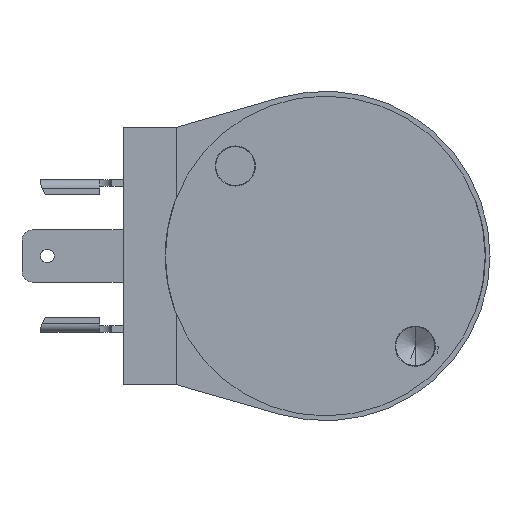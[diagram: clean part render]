
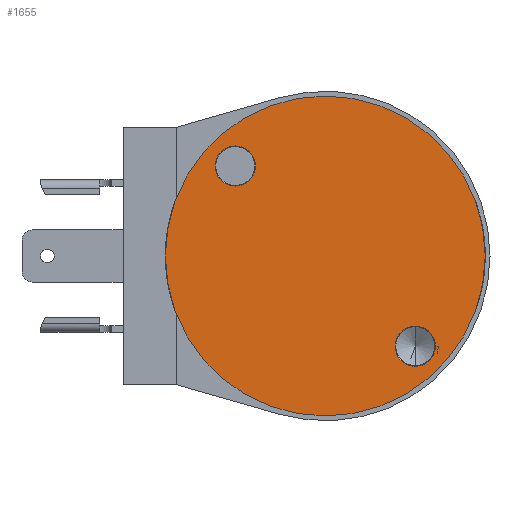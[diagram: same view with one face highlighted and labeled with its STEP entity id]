
A CAD part, front view. The second image highlights one B-rep face of the part: STEP entity #1655.
In plain terms, the highlighted planar face has unit normal (0, -1, 0).
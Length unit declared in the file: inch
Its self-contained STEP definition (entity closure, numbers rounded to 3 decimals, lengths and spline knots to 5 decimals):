
#63 = EDGE_LOOP ( 'NONE', ( #527, #3180 ) ) ;
#255 = AXIS2_PLACEMENT_3D ( 'NONE', #1449, #6334, #6424 ) ;
#491 = FACE_OUTER_BOUND ( 'NONE', #3313, .T. ) ;
#527 = ORIENTED_EDGE ( 'NONE', *, *, #6997, .F. ) ;
#741 = AXIS2_PLACEMENT_3D ( 'NONE', #7766, #8821, #4007 ) ;
#743 = DIRECTION ( 'NONE',  ( 0., 1., 0. ) ) ;
#1117 = CARTESIAN_POINT ( 'NONE',  ( -0.437, 0., 0.437 ) ) ;
#1172 = CARTESIAN_POINT ( 'NONE',  ( -0.437, 0., 0.3395 ) ) ;
#1203 = CARTESIAN_POINT ( 'NONE',  ( 0.437, 0., -0.3405 ) ) ;
#1401 = CIRCLE ( 'NONE', #6269, 0.77675 ) ;
#1449 = CARTESIAN_POINT ( 'NONE',  ( 0., 0., 0. ) ) ;
#1533 = FACE_BOUND ( 'NONE', #63, .T. ) ;
#1655 = ADVANCED_FACE ( 'Defeatured_0_23', ( #12659, #1533, #491 ), #10112, .F. ) ;
#1741 = ORIENTED_EDGE ( 'NONE', *, *, #3952, .F. ) ;
#1800 = CARTESIAN_POINT ( 'NONE',  ( 0., 0., -0.77675 ) ) ;
#2077 = DIRECTION ( 'NONE',  ( 0., 0., 1. ) ) ;
#2421 = VERTEX_POINT ( 'NONE', #1172 ) ;
#2586 = CIRCLE ( 'NONE', #6925, 0.77675 ) ;
#3126 = VERTEX_POINT ( 'NONE', #1203 ) ;
#3167 = CARTESIAN_POINT ( 'NONE',  ( -0.437, 0., 0.5345 ) ) ;
#3180 = ORIENTED_EDGE ( 'NONE', *, *, #14201, .F. ) ;
#3200 = DIRECTION ( 'NONE',  ( 0., 1., 0. ) ) ;
#3271 = CARTESIAN_POINT ( 'NONE',  ( 0., 0., 0. ) ) ;
#3313 = EDGE_LOOP ( 'NONE', ( #12148, #15206 ) ) ;
#3596 = DIRECTION ( 'NONE',  ( 0., 0., -1. ) ) ;
#3952 = EDGE_CURVE ( 'Defeatured_0_141+Defeatured_0_23+Defeatured_0_23+Defeatured_0_23', #3126, #12617, #6875, .T. ) ;
#4007 = DIRECTION ( 'NONE',  ( 0., 0., -1. ) ) ;
#4268 = DIRECTION ( 'NONE',  ( 0., 0., 1. ) ) ;
#5129 = DIRECTION ( 'NONE',  ( 0., 0., -1. ) ) ;
#6203 = EDGE_CURVE ( 'Defeatured_0_141+Defeatured_0_23+Defeatured_0_23+Defeatured_0_23', #12617, #3126, #9485, .T. ) ;
#6269 = AXIS2_PLACEMENT_3D ( 'NONE', #6518, #743, #4268 ) ;
#6334 = DIRECTION ( 'NONE',  ( 0., 1., 0. ) ) ;
#6424 = DIRECTION ( 'NONE',  ( 0., 0., 1. ) ) ;
#6441 = VERTEX_POINT ( 'NONE', #1800 ) ;
#6518 = CARTESIAN_POINT ( 'NONE',  ( 0., 0., 0. ) ) ;
#6543 = CIRCLE ( 'NONE', #11913, 0.0975 ) ;
#6875 = CIRCLE ( 'NONE', #741, 0.0975 ) ;
#6925 = AXIS2_PLACEMENT_3D ( 'NONE', #3271, #3200, #2077 ) ;
#6997 = EDGE_CURVE ( 'Defeatured_0_143+Defeatured_0_23+Defeatured_0_23+Defeatured_0_23', #2421, #7011, #12811, .T. ) ;
#7000 = DIRECTION ( 'NONE',  ( 0., 0., -1. ) ) ;
#7011 = VERTEX_POINT ( 'NONE', #3167 ) ;
#7571 = EDGE_CURVE ( 'Defeatured_0_21+Defeatured_0_23+Defeatured_0_23+Defeatured_0_23', #6441, #7930, #2586, .T. ) ;
#7766 = CARTESIAN_POINT ( 'NONE',  ( 0.437, 0., -0.438 ) ) ;
#7882 = ORIENTED_EDGE ( 'NONE', *, *, #6203, .F. ) ;
#7930 = VERTEX_POINT ( 'NONE', #9085 ) ;
#8198 = AXIS2_PLACEMENT_3D ( 'NONE', #8658, #11060, #5129 ) ;
#8658 = CARTESIAN_POINT ( 'NONE',  ( 0.437, 0., -0.438 ) ) ;
#8821 = DIRECTION ( 'NONE',  ( 0., -1., 0. ) ) ;
#9085 = CARTESIAN_POINT ( 'NONE',  ( 0., 0., 0.77675 ) ) ;
#9251 = CARTESIAN_POINT ( 'NONE',  ( -0.437, 0., 0.437 ) ) ;
#9485 = CIRCLE ( 'NONE', #8198, 0.0975 ) ;
#9495 = AXIS2_PLACEMENT_3D ( 'NONE', #9251, #13086, #7000 ) ;
#9888 = CARTESIAN_POINT ( 'NONE',  ( 0.437, 0., -0.5355 ) ) ;
#10112 = PLANE ( 'NONE',  #255 ) ;
#10121 = EDGE_LOOP ( 'NONE', ( #7882, #1741 ) ) ;
#11060 = DIRECTION ( 'NONE',  ( 0., -1., 0. ) ) ;
#11913 = AXIS2_PLACEMENT_3D ( 'NONE', #1117, #14604, #3596 ) ;
#12148 = ORIENTED_EDGE ( 'NONE', *, *, #7571, .F. ) ;
#12617 = VERTEX_POINT ( 'NONE', #9888 ) ;
#12659 = FACE_BOUND ( 'NONE', #10121, .T. ) ;
#12811 = CIRCLE ( 'NONE', #9495, 0.0975 ) ;
#12895 = EDGE_CURVE ( 'Defeatured_0_21+Defeatured_0_23+Defeatured_0_23+Defeatured_0_23', #7930, #6441, #1401, .T. ) ;
#13086 = DIRECTION ( 'NONE',  ( 0., -1., 0. ) ) ;
#14201 = EDGE_CURVE ( 'Defeatured_0_143+Defeatured_0_23+Defeatured_0_23+Defeatured_0_23', #7011, #2421, #6543, .T. ) ;
#14604 = DIRECTION ( 'NONE',  ( 0., -1., 0. ) ) ;
#15206 = ORIENTED_EDGE ( 'NONE', *, *, #12895, .F. ) ;
